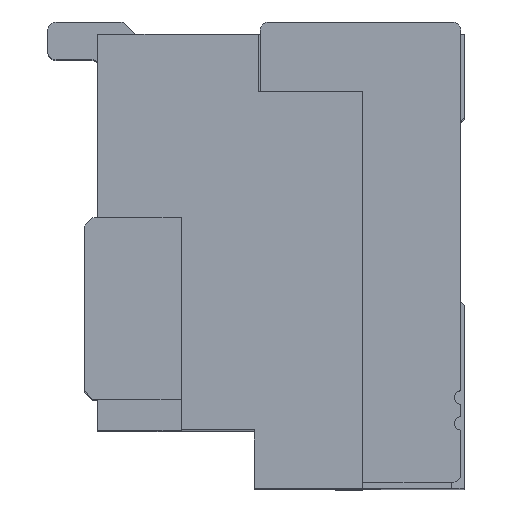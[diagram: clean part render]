
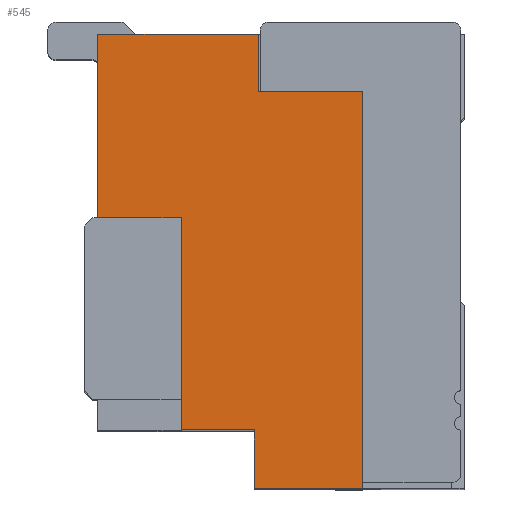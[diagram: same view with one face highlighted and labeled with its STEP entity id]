
A CAD part, top view. The second image highlights one B-rep face of the part: STEP entity #545.
In plain terms, the highlighted planar face has unit normal (0, 0, 1).
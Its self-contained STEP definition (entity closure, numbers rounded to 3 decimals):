
#332 = LINE ( 'NONE', #5760, #15360 ) ;
#545 = ADVANCED_FACE ( 'NONE', ( #4880 ), #881, .T. ) ;
#558 = EDGE_CURVE ( 'NONE', #3772, #12709, #3631, .T. ) ;
#881 = PLANE ( 'NONE',  #9387 ) ;
#976 = CARTESIAN_POINT ( 'NONE',  ( -2.178, 2.602, 6.05 ) ) ;
#1044 = DIRECTION ( 'NONE',  ( -1., 0., 0. ) ) ;
#1259 = DIRECTION ( 'NONE',  ( -1., 0., 0. ) ) ;
#1387 = CARTESIAN_POINT ( 'NONE',  ( -0.248, 1.922, 6.05 ) ) ;
#1877 = ORIENTED_EDGE ( 'NONE', *, *, #6779, .T. ) ;
#2014 = CARTESIAN_POINT ( 'NONE',  ( -0.298, -2.148, 6.05 ) ) ;
#2119 = DIRECTION ( 'NONE',  ( 0., -1., 0. ) ) ;
#2128 = DIRECTION ( 'NONE',  ( -1., 0., 0. ) ) ;
#2386 = DIRECTION ( 'NONE',  ( 1., 0., 0. ) ) ;
#2554 = LINE ( 'NONE', #5132, #12648 ) ;
#2590 = EDGE_CURVE ( 'NONE', #11086, #3772, #13987, .T. ) ;
#2830 = VERTEX_POINT ( 'NONE', #10509 ) ;
#3631 = LINE ( 'NONE', #3723, #6334 ) ;
#3723 = CARTESIAN_POINT ( 'NONE',  ( -0.248, 1.922, 6.05 ) ) ;
#3772 = VERTEX_POINT ( 'NONE', #1387 ) ;
#4263 = ORIENTED_EDGE ( 'NONE', *, *, #2590, .F. ) ;
#4346 = EDGE_CURVE ( 'NONE', #12709, #9975, #8988, .T. ) ;
#4714 = CARTESIAN_POINT ( 'NONE',  ( 1.002, 1.922, 6.05 ) ) ;
#4715 = EDGE_CURVE ( 'NONE', #6948, #2830, #7903, .T. ) ;
#4880 = FACE_OUTER_BOUND ( 'NONE', #11426, .T. ) ;
#5132 = CARTESIAN_POINT ( 'NONE',  ( -2.178, 0.402, 6.05 ) ) ;
#5306 = ORIENTED_EDGE ( 'NONE', *, *, #12101, .F. ) ;
#5646 = LINE ( 'NONE', #10008, #8744 ) ;
#5760 = CARTESIAN_POINT ( 'NONE',  ( -1.178, -2.148, 6.05 ) ) ;
#5896 = DIRECTION ( 'NONE',  ( 0., -1., 0. ) ) ;
#6225 = LINE ( 'NONE', #976, #7979 ) ;
#6334 = VECTOR ( 'NONE', #2386, 1000. ) ;
#6779 = EDGE_CURVE ( 'NONE', #9343, #9975, #5646, .T. ) ;
#6813 = VECTOR ( 'NONE', #7564, 1000. ) ;
#6948 = VERTEX_POINT ( 'NONE', #9635 ) ;
#7564 = DIRECTION ( 'NONE',  ( 0., -1., 0. ) ) ;
#7730 = DIRECTION ( 'NONE',  ( 0., 0., 1. ) ) ;
#7804 = VECTOR ( 'NONE', #1259, 1000. ) ;
#7903 = LINE ( 'NONE', #9153, #17425 ) ;
#7979 = VECTOR ( 'NONE', #2128, 1000. ) ;
#7998 = ORIENTED_EDGE ( 'NONE', *, *, #4346, .F. ) ;
#8136 = VERTEX_POINT ( 'NONE', #8216 ) ;
#8216 = CARTESIAN_POINT ( 'NONE',  ( -1.178, -2.148, 6.05 ) ) ;
#8652 = VERTEX_POINT ( 'NONE', #2014 ) ;
#8663 = CARTESIAN_POINT ( 'NONE',  ( -0.248, 2.602, 6.05 ) ) ;
#8683 = EDGE_CURVE ( 'NONE', #8136, #12749, #332, .T. ) ;
#8699 = DIRECTION ( 'NONE',  ( 0., 1., 0. ) ) ;
#8702 = CARTESIAN_POINT ( 'NONE',  ( -0.248, 2.602, 6.05 ) ) ;
#8744 = VECTOR ( 'NONE', #8763, 1000. ) ;
#8763 = DIRECTION ( 'NONE',  ( 1., 0., 0. ) ) ;
#8969 = CARTESIAN_POINT ( 'NONE',  ( 1.002, 1.922, 6.05 ) ) ;
#8988 = LINE ( 'NONE', #4714, #6813 ) ;
#9153 = CARTESIAN_POINT ( 'NONE',  ( -2.178, 2.602, 6.05 ) ) ;
#9343 = VERTEX_POINT ( 'NONE', #9526 ) ;
#9387 = AXIS2_PLACEMENT_3D ( 'NONE', #15542, #7730, #10309 ) ;
#9526 = CARTESIAN_POINT ( 'NONE',  ( -0.298, -2.848, 6.05 ) ) ;
#9635 = CARTESIAN_POINT ( 'NONE',  ( -2.178, 2.602, 6.05 ) ) ;
#9801 = EDGE_CURVE ( 'NONE', #9343, #8652, #12689, .T. ) ;
#9975 = VERTEX_POINT ( 'NONE', #17124 ) ;
#10008 = CARTESIAN_POINT ( 'NONE',  ( -2.178, -2.848, 6.05 ) ) ;
#10177 = ORIENTED_EDGE ( 'NONE', *, *, #12812, .F. ) ;
#10309 = DIRECTION ( 'NONE',  ( 1., 0., 0. ) ) ;
#10509 = CARTESIAN_POINT ( 'NONE',  ( -2.178, 0.402, 6.05 ) ) ;
#10541 = ORIENTED_EDGE ( 'NONE', *, *, #8683, .F. ) ;
#11086 = VERTEX_POINT ( 'NONE', #8702 ) ;
#11106 = ORIENTED_EDGE ( 'NONE', *, *, #4715, .T. ) ;
#11180 = DIRECTION ( 'NONE',  ( 0., 1., 0. ) ) ;
#11426 = EDGE_LOOP ( 'NONE', ( #10177, #10541, #5306, #13514, #1877, #7998, #13294, #4263, #16261, #11106 ) ) ;
#11717 = VECTOR ( 'NONE', #5896, 1000. ) ;
#12101 = EDGE_CURVE ( 'NONE', #8652, #8136, #12363, .T. ) ;
#12363 = LINE ( 'NONE', #16442, #7804 ) ;
#12648 = VECTOR ( 'NONE', #1044, 1000. ) ;
#12689 = LINE ( 'NONE', #16863, #16486 ) ;
#12709 = VERTEX_POINT ( 'NONE', #8969 ) ;
#12749 = VERTEX_POINT ( 'NONE', #14296 ) ;
#12812 = EDGE_CURVE ( 'NONE', #12749, #2830, #2554, .T. ) ;
#13294 = ORIENTED_EDGE ( 'NONE', *, *, #558, .F. ) ;
#13514 = ORIENTED_EDGE ( 'NONE', *, *, #9801, .F. ) ;
#13987 = LINE ( 'NONE', #8663, #11717 ) ;
#14296 = CARTESIAN_POINT ( 'NONE',  ( -1.178, 0.402, 6.05 ) ) ;
#15360 = VECTOR ( 'NONE', #11180, 1000. ) ;
#15542 = CARTESIAN_POINT ( 'NONE',  ( 0., 0., 6.05 ) ) ;
#16144 = EDGE_CURVE ( 'NONE', #11086, #6948, #6225, .T. ) ;
#16261 = ORIENTED_EDGE ( 'NONE', *, *, #16144, .T. ) ;
#16442 = CARTESIAN_POINT ( 'NONE',  ( -2.178, -2.148, 6.05 ) ) ;
#16486 = VECTOR ( 'NONE', #8699, 1000. ) ;
#16863 = CARTESIAN_POINT ( 'NONE',  ( -0.298, -2.848, 6.05 ) ) ;
#17124 = CARTESIAN_POINT ( 'NONE',  ( 1.002, -2.848, 6.05 ) ) ;
#17425 = VECTOR ( 'NONE', #2119, 1000. ) ;
